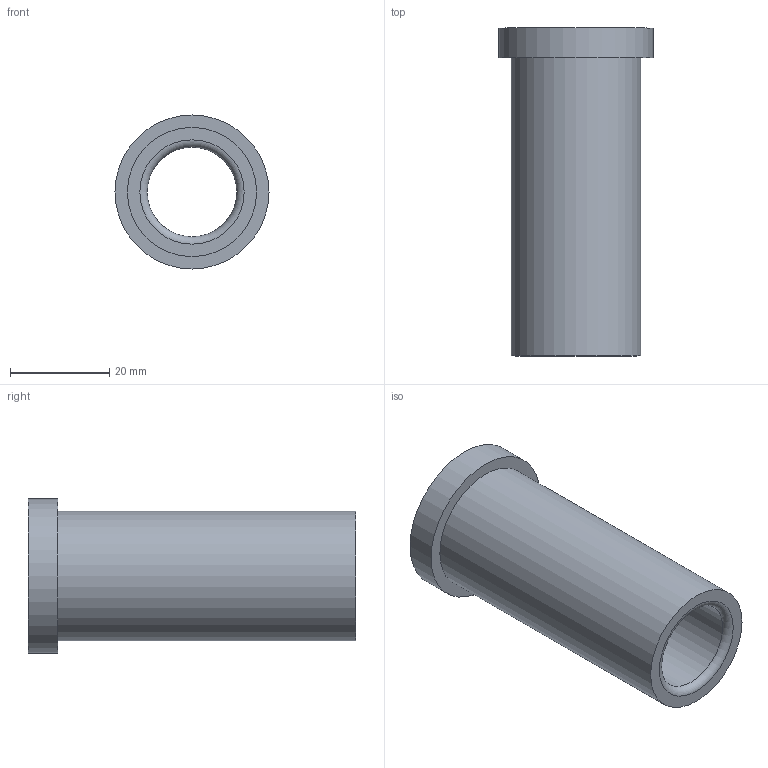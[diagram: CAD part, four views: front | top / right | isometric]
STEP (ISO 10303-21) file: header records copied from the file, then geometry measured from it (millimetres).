
FILE_DESCRIPTION(/* description */ ('STEP AP214'),/* implementation_level */ '2;1');
FILE_NAME(/* name */ '03_12_17848',/* time_stamp */ '2023-06-15T11:35:30+02:00',/* author */ ('License CC BY-ND 4.0'),/* organization */ ('CADENAS'),/* preprocessor_version */ 'ST-DEVELOPER v19.3',/* originating_system */ 'PARTsolutions',/* authorisation */ ' ');
FILE_SCHEMA (('AUTOMOTIVE_DESIGN {1 0 10303 214 3 1 1}'));
Length unit declared in the file: millimetre
Products named in the file (1): VA_Bushing_17848
Bounding box: 31 x 66 x 31 mm (x, y, z)
Volume: 19304.2 mm3; surface area: 10170.9 mm2
Topology: 1 solids, 1 shells, 10 faces, 16 edges, 10 vertices
Faces by surface type: cylinder 4, plane 4, torus 2
Full cylindrical faces by diameter (mm): 18 x1, 18.6 x1, 26 x1, 31 x1
Entity records: 302 total; most frequent: DIRECTION 42, CARTESIAN_POINT 31, AXIS2_PLACEMENT_3D 21, ORIENTED_EDGE 20, EDGE_LOOP 20, FACE_BOUND 20, EDGE_CURVE 10, VERTEX_POINT 10
